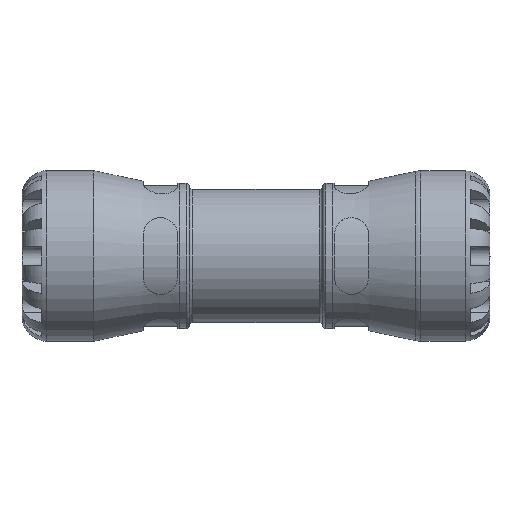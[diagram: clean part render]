
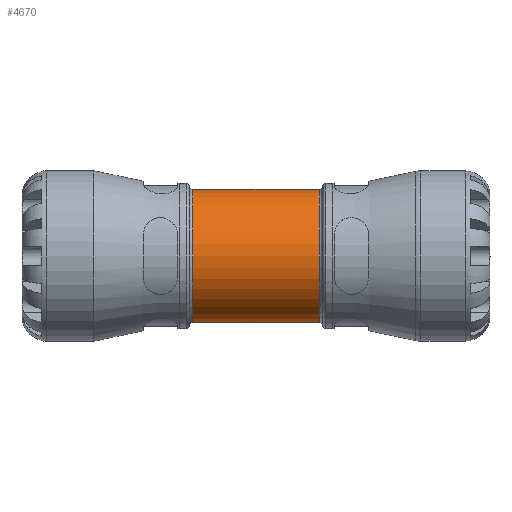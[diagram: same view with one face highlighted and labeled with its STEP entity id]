
A CAD part, front view. The second image highlights one B-rep face of the part: STEP entity #4670.
In plain terms, the highlighted cylindrical face has radius 27.3 mm (diameter 54.6 mm), a full revolution.
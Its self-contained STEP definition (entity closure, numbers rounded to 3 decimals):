
#684=FACE_BOUND('',#1119,.T.);
#685=FACE_BOUND('',#1120,.T.);
#732=CYLINDRICAL_SURFACE('',#4960,27.3);
#830=FACE_OUTER_BOUND('',#1118,.T.);
#1118=EDGE_LOOP('',(#3021));
#1119=EDGE_LOOP('',(#3022));
#1120=EDGE_LOOP('',(#3023));
#1451=B_SPLINE_CURVE_WITH_KNOTS('',3,(#6940,#6941,#6942,#6943,#6944,#6945,
#6946,#6947,#6948,#6949,#6950,#6951,#6952,#6953,#6954,#6955,#6956,#6957,
#6958,#6959,#6960,#6961,#6962),.UNSPECIFIED.,.T.,.F.,(4,1,1,1,1,1,1,1,1,
1,1,1,1,1,1,1,1,1,1,1,4),(-11.516,-11.105,-10.693,
-9.871,-9.322,-8.774,-8.226,
-7.677,-7.129,-6.581,-6.032,
-5.484,-4.935,-4.387,-3.29,
-2.879,-2.468,-1.645,-0.823,
-0.411,0.),.UNSPECIFIED.);
#1647=CIRCLE('',#4961,27.3);
#1648=CIRCLE('',#4962,27.3);
#1892=VERTEX_POINT('',#6914);
#1895=VERTEX_POINT('',#6967);
#1896=VERTEX_POINT('',#6969);
#2335=EDGE_CURVE('',#1892,#1892,#1451,.T.);
#2337=EDGE_CURVE('',#1895,#1895,#1647,.T.);
#2338=EDGE_CURVE('',#1896,#1896,#1648,.T.);
#3021=ORIENTED_EDGE('',*,*,#2337,.F.);
#3022=ORIENTED_EDGE('',*,*,#2338,.F.);
#3023=ORIENTED_EDGE('',*,*,#2335,.F.);
#4670=ADVANCED_FACE('',(#830,#684,#685),#732,.T.);
#4960=AXIS2_PLACEMENT_3D('',#6966,#5498,#5499);
#4961=AXIS2_PLACEMENT_3D('',#6968,#5500,#5501);
#4962=AXIS2_PLACEMENT_3D('',#6970,#5502,#5503);
#5498=DIRECTION('center_axis',(1.,0.,0.));
#5499=DIRECTION('ref_axis',(0.,1.,0.));
#5500=DIRECTION('center_axis',(-1.,0.,0.));
#5501=DIRECTION('ref_axis',(0.,1.,0.));
#5502=DIRECTION('center_axis',(1.,0.,0.));
#5503=DIRECTION('ref_axis',(0.,1.,0.));
#6914=CARTESIAN_POINT('',(0.,20.026,18.554));
#6940=CARTESIAN_POINT('Ctrl Pts',(0.,20.025,
18.554));
#6941=CARTESIAN_POINT('Ctrl Pts',(1.476,20.025,18.554));
#6942=CARTESIAN_POINT('Ctrl Pts',(4.428,20.348,18.214));
#6943=CARTESIAN_POINT('Ctrl Pts',(9.796,21.98,16.31));
#6944=CARTESIAN_POINT('Ctrl Pts',(14.501,24.445,12.642));
#6945=CARTESIAN_POINT('Ctrl Pts',(17.899,26.546,7.096));
#6946=CARTESIAN_POINT('Ctrl Pts',(19.284,27.471,1.474));
#6947=CARTESIAN_POINT('Ctrl Pts',(18.809,27.149,-4.364));
#6948=CARTESIAN_POINT('Ctrl Pts',(16.607,25.724,-9.603));
#6949=CARTESIAN_POINT('Ctrl Pts',(13.084,23.668,-13.823));
#6950=CARTESIAN_POINT('Ctrl Pts',(8.528,21.531,-16.883));
#6951=CARTESIAN_POINT('Ctrl Pts',(3.023,19.967,-18.621));
#6952=CARTESIAN_POINT('Ctrl Pts',(-3.023,19.964,-18.63));
#6953=CARTESIAN_POINT('Ctrl Pts',(-8.53,21.529,-16.872));
#6954=CARTESIAN_POINT('Ctrl Pts',(-14.594,24.386,-12.829));
#6955=CARTESIAN_POINT('Ctrl Pts',(-18.384,26.882,-6.741));
#6956=CARTESIAN_POINT('Ctrl Pts',(-19.206,27.414,0.003));
#6957=CARTESIAN_POINT('Ctrl Pts',(-18.506,26.954,5.763));
#6958=CARTESIAN_POINT('Ctrl Pts',(-15.226,24.826,12.093));
#6959=CARTESIAN_POINT('Ctrl Pts',(-9.795,21.98,16.305));
#6960=CARTESIAN_POINT('Ctrl Pts',(-4.428,20.348,18.216));
#6961=CARTESIAN_POINT('Ctrl Pts',(-1.476,20.025,18.555));
#6962=CARTESIAN_POINT('Ctrl Pts',(0.,20.025,
18.554));
#6966=CARTESIAN_POINT('Origin',(13.65,0.,0.));
#6967=CARTESIAN_POINT('',(-25.922,-27.3,0.));
#6968=CARTESIAN_POINT('Origin',(-25.922,0.,0.));
#6969=CARTESIAN_POINT('',(25.922,-27.3,0.));
#6970=CARTESIAN_POINT('Origin',(25.922,0.,0.));
